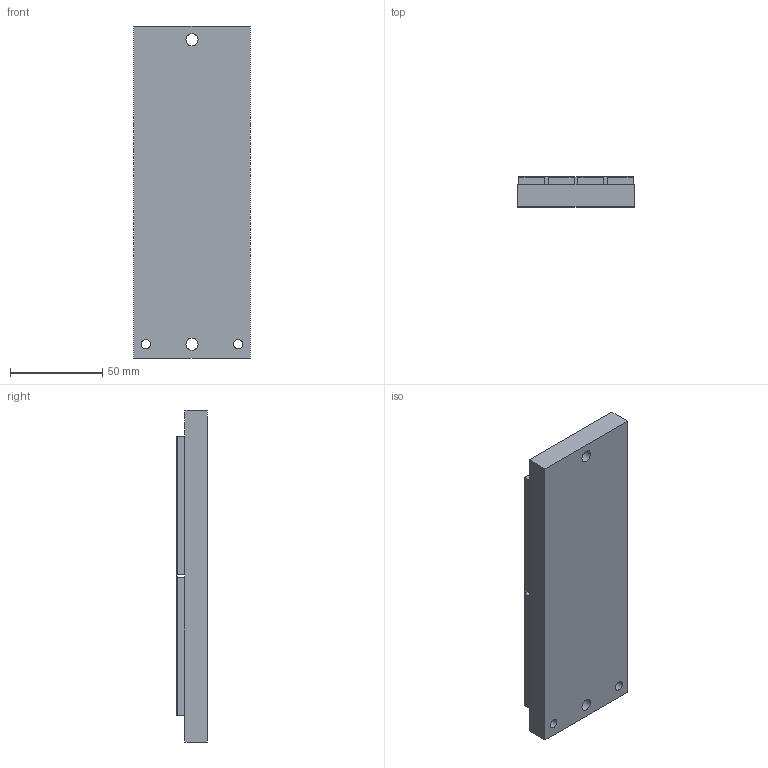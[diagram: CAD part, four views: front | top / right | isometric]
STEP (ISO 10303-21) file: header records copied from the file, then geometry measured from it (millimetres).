
FILE_DESCRIPTION((''),'2;1');
FILE_NAME('MC150-0064-WC','2007-01-14T',('saurabh.singhal'),(''),'PRO/ENGINEER BY PARAMETRIC TECHNOLOGY CORPORATION, 2005450','PRO/ENGINEER BY PARAMETRIC TECHNOLOGY CORPORATION, 2005450','');
FILE_SCHEMA(('CONFIG_CONTROL_DESIGN'));
Length unit declared in the file: millimetre
Products named in the file (1): MC150-0064-WC
Bounding box: 63.3 x 16.4 x 180 mm (x, y, z)
Volume: 170854.9 mm3; surface area: 55147.4 mm2
Topology: 1 solids, 1 shells, 68 faces, 168 edges, 112 vertices
Faces by surface type: plane 56, cylinder 12
Entity records: 2054 total; most frequent: CARTESIAN_POINT 348, ORIENTED_EDGE 336, DIRECTION 328, EDGE_CURVE 168, VECTOR 144, LINE 144, VERTEX_POINT 112, AXIS2_PLACEMENT_3D 92
